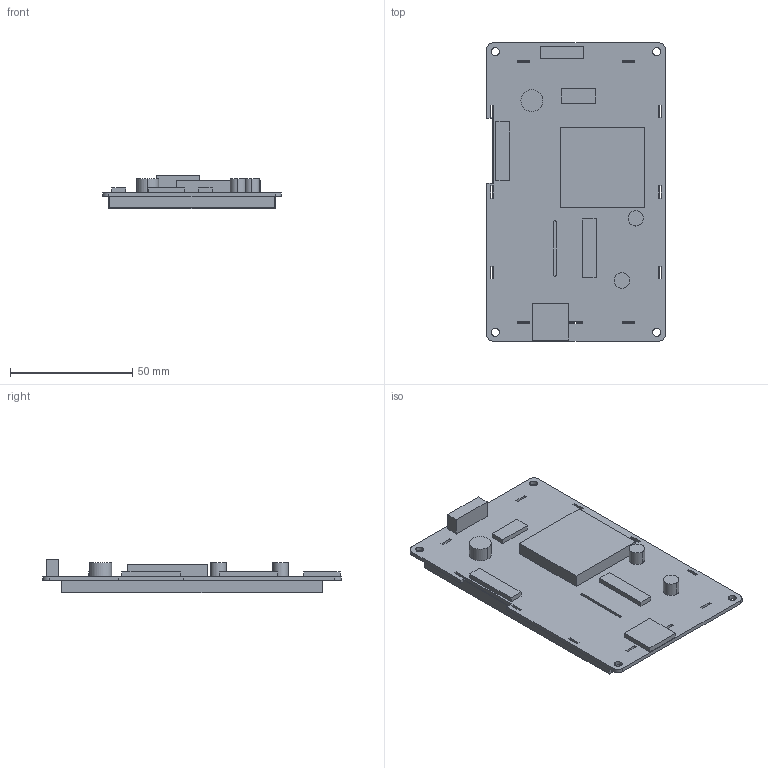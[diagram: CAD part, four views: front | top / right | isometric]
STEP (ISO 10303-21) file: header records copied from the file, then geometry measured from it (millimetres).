
FILE_DESCRIPTION((''),'2;1');
FILE_NAME('DMG448270C043-04WN','2021-11-23T',('Administrator'),(''),'PRO/ENGINEER BY PARAMETRIC TECHNOLOGY CORPORATION, 2011310','PRO/ENGINEER BY PARAMETRIC TECHNOLOGY CORPORATION, 2011310','');
FILE_SCHEMA(('CONFIG_CONTROL_DESIGN','SHAPE_APPEARANCE_LAYERS_GROUPS'));
Length unit declared in the file: millimetre
Products named in the file (1): DMG448270C043-04WN
Bounding box: 73.15 x 121.92 x 13.8 mm (x, y, z)
Volume: 44008.4 mm3; surface area: 39128.6 mm2
Topology: 1 solids, 1 shells, 147 faces, 402 edges, 260 vertices
Faces by surface type: plane 127, cylinder 20
Entity records: 5655 total; most frequent: CARTESIAN_POINT 809, ORIENTED_EDGE 804, DIRECTION 736, EDGE_CURVE 402, VECTOR 362, LINE 362, VERTEX_POINT 260, AXIS2_PLACEMENT_3D 187
